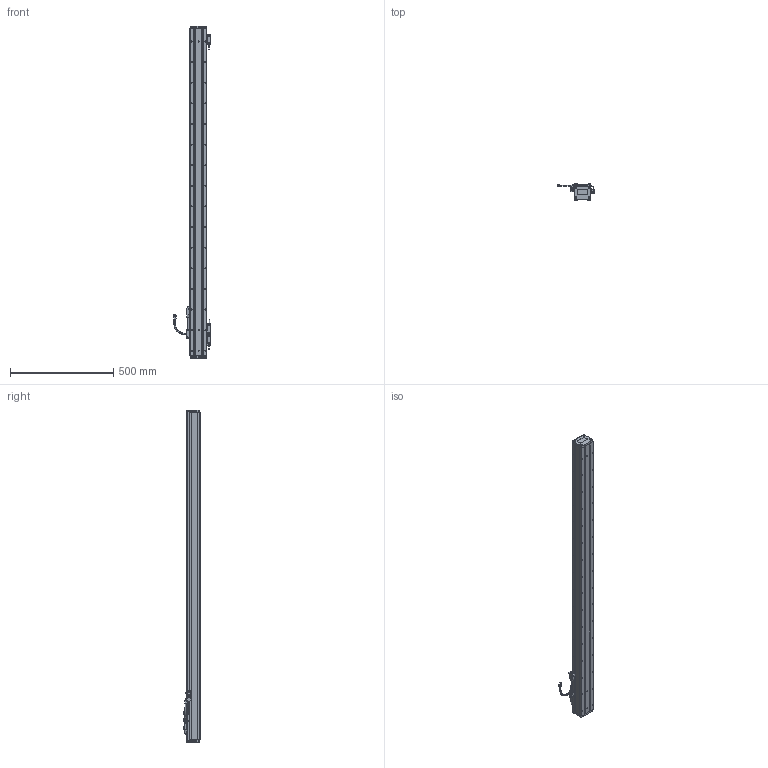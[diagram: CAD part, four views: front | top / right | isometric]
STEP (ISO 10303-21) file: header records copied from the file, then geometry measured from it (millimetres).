
FILE_DESCRIPTION(('Open CASCADE Model'),'2;1');
FILE_NAME('Open CASCADE Shape Model','2025-11-07T02:35:32',('Author'),( 'Open CASCADE'),'Open CASCADE STEP processor 7.6','Open CASCADE 7.6' ,'Unknown');
FILE_SCHEMA(('AUTOMOTIVE_DESIGN { 1 0 10303 214 1 1 1 1 }'));
Length unit declared in the file: millimetre
Products named in the file (24): Open CASCADE STEP translator 7.6 182; Open CASCADE STEP translator 7.6 182.1; Open CASCADE STEP translator 7.6 182.2; Open CASCADE STEP translator 7.6 182.3; Open CASCADE STEP translator 7.6 182.4; Open CASCADE STEP translator 7.6 182.5; Open CASCADE STEP translator 7.6 182.6; Open CASCADE STEP translator 7.6 182.7; Open CASCADE STEP translator 7.6 182.7.1; Open CASCADE STEP translator 7.6 182.7.1.1; Open CASCADE STEP translator 7.6 182.7.1.2; Open CASCADE STEP translator 7.6 182.8; Open CASCADE STEP translator 7.6 182.9; Open CASCADE STEP translator 7.6 182.10; Open CASCADE STEP translator 7.6 182.10.1; Open CASCADE STEP translator 7.6 182.10.1.1; Open CASCADE STEP translator 7.6 182.10.1.2; Open CASCADE STEP translator 7.6 182.10.1.3; Open CASCADE STEP translator 7.6 182.11; Open CASCADE STEP translator 7.6 182.12; Open CASCADE STEP translator 7.6 182.13; Open CASCADE STEP translator 7.6 182.14; Open CASCADE STEP translator 7.6 182.15; Open CASCADE STEP translator 7.6 182.16
Assembly tree (23 placements, depth 4):
  Open CASCADE STEP translator 7.6 182
    Open CASCADE STEP translator 7.6 182.1
    Open CASCADE STEP translator 7.6 182.2
    Open CASCADE STEP translator 7.6 182.3
    Open CASCADE STEP translator 7.6 182.4
    Open CASCADE STEP translator 7.6 182.5
    Open CASCADE STEP translator 7.6 182.6
    Open CASCADE STEP translator 7.6 182.7
      Open CASCADE STEP translator 7.6 182.7.1
        Open CASCADE STEP translator 7.6 182.7.1.1
        Open CASCADE STEP translator 7.6 182.7.1.2
    Open CASCADE STEP translator 7.6 182.8
    Open CASCADE STEP translator 7.6 182.9
    Open CASCADE STEP translator 7.6 182.10
      Open CASCADE STEP translator 7.6 182.10.1
        Open CASCADE STEP translator 7.6 182.10.1.1
        Open CASCADE STEP translator 7.6 182.10.1.2
        Open CASCADE STEP translator 7.6 182.10.1.3
    Open CASCADE STEP translator 7.6 182.11
    Open CASCADE STEP translator 7.6 182.12
    Open CASCADE STEP translator 7.6 182.13
    Open CASCADE STEP translator 7.6 182.14
    Open CASCADE STEP translator 7.6 182.15
    Open CASCADE STEP translator 7.6 182.16
Bounding box: 181.25 x 78 x 1610 mm (x, y, z)
Volume: 4709964.1 mm3; surface area: 980202.3 mm2
Topology: 19 solids, 19 shells, 2000 faces, 5091 edges, 3241 vertices
Faces by surface type: plane 1094, cylinder 704, cone 112, torus 54, bspline 30, sphere 6
Entity records: 139925 total; most frequent: CARTESIAN_POINT 38163, DIRECTION 19261, LINE 11842, VECTOR 11842, ORIENTED_EDGE 10084, PCURVE 10084, DEFINITIONAL_REPRESENTATION 10084, EDGE_CURVE 5042
